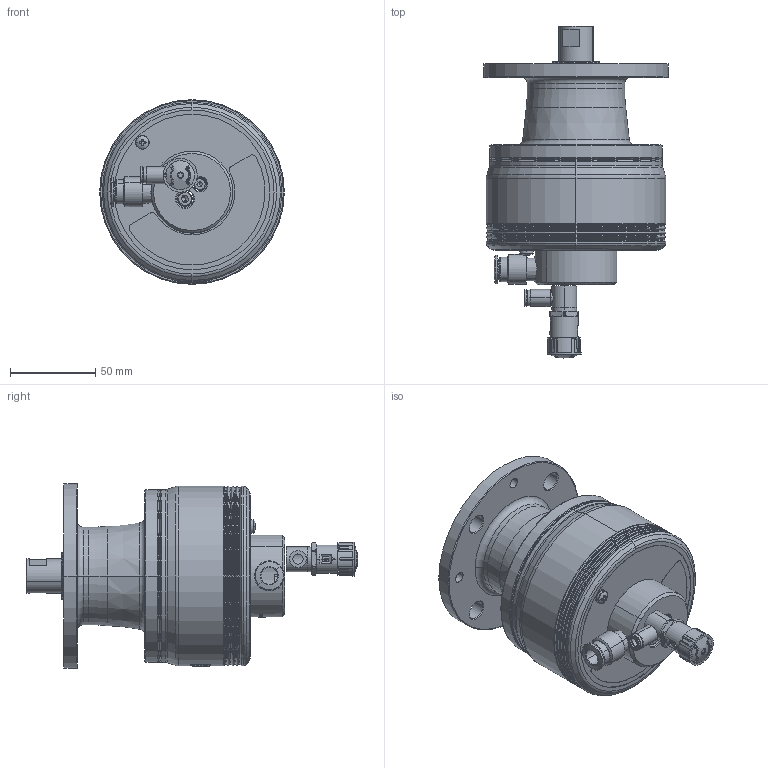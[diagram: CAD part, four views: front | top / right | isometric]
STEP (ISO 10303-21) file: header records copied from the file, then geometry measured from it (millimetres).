
FILE_DESCRIPTION (( 'STEP AP214' ), '1' );
FILE_NAME ('eco-Drive 900.STEP', '2020-04-07T09:37:57', ( '' ), ( '' ), 'SwSTEP 2.0', 'SolidWorks 2019', '' );
FILE_SCHEMA (( 'AUTOMOTIVE_DESIGN' ));
Length unit declared in the file: millimetre
Products named in the file (1): eco-Drive 900
Bounding box: 108 x 194.22 x 108 mm (x, y, z)
Surface area: 76764 mm2 (no closed solid volume)
Topology: 0 solids, 35 shells, 740 faces, 2819 edges, 2017 vertices
Faces by surface type: plane 228, cylinder 207, bspline 124, cone 105, torus 74, sphere 2
Entity records: 54866 total; most frequent: CARTESIAN_POINT 25458, ORIENTED_EDGE 4294, DIRECTION 3786, EDGE_CURVE 2807, VERTEX_POINT 2017, AXIS2_PLACEMENT_3D 1450, B_SPLINE_CURVE_WITH_KNOTS 1072, VECTOR 886
